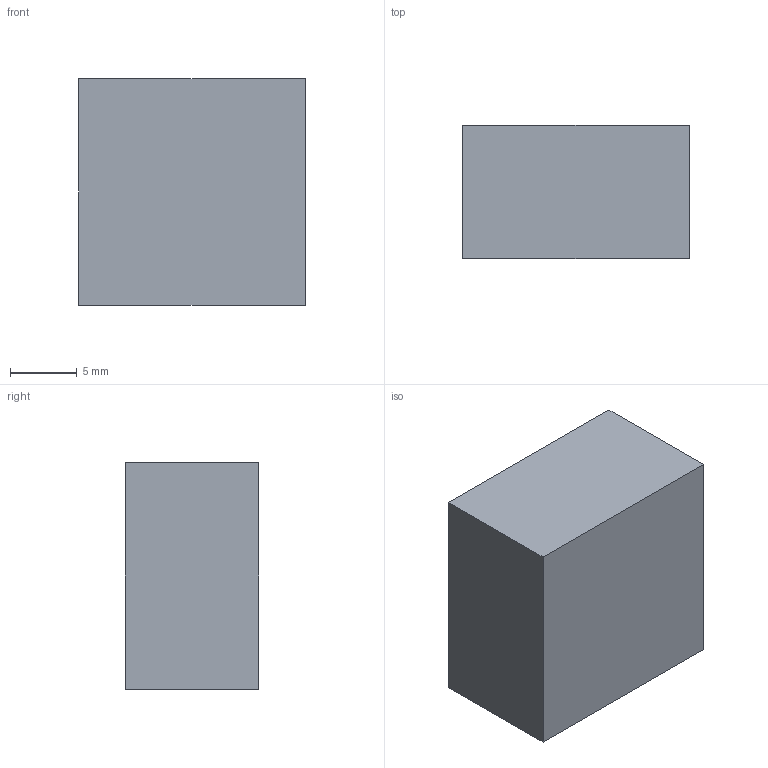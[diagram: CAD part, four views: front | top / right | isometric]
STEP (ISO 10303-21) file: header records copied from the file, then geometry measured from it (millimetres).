
FILE_DESCRIPTION(('Open CASCADE Model'),'2;1');
FILE_NAME('Open CASCADE Shape Model','2026-10-21T18:57:50',('Author'),( 'Open CASCADE'),'Open CASCADE STEP processor 8.0','build123d', 'Unknown');
FILE_SCHEMA(('AUTOMOTIVE_DESIGN { 1 0 10303 214 1 1 1 1 }'));
Length unit declared in the file: millimetre
Products named in the file (1): SOLID
Bounding box: 17 x 10 x 17 mm (x, y, z)
Volume: 2507.1 mm3; surface area: 1490.1 mm2
Topology: 1 solids, 1 shells, 10 faces, 24 edges, 16 vertices
Faces by surface type: plane 10
Entity records: 606 total; most frequent: CARTESIAN_POINT 103, DIRECTION 90, LINE 68, VECTOR 68, ORIENTED_EDGE 48, PCURVE 48, DEFINITIONAL_REPRESENTATION 48, EDGE_CURVE 24
